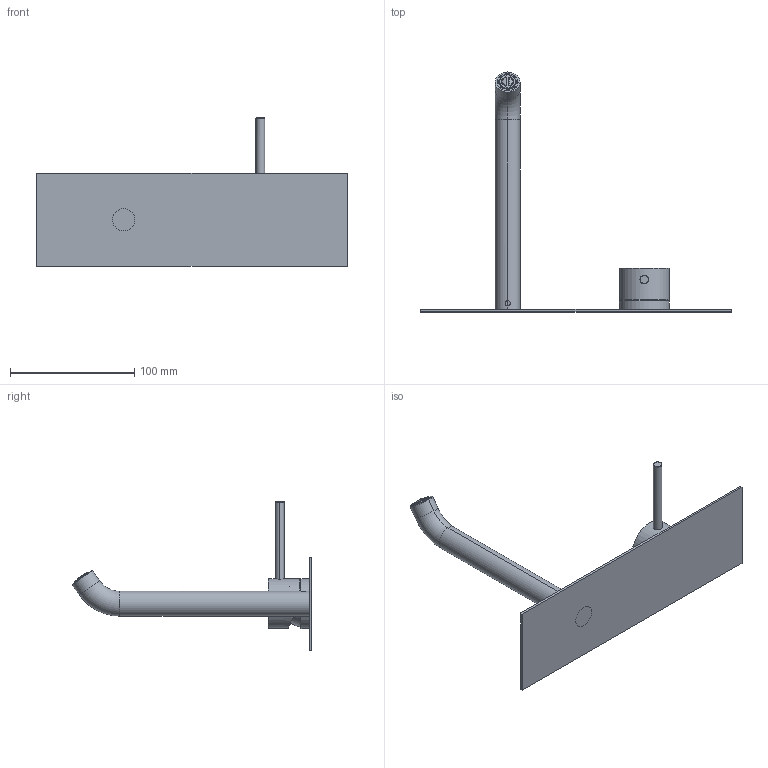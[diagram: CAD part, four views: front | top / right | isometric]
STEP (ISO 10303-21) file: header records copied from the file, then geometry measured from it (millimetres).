
FILE_DESCRIPTION((''),'2;1');
FILE_NAME('6954821_SW0001','2025-11-18T16:32:07',('carloff'),(''),'CREO PARAMETRIC BY PTC INC, 2022014','CREO PARAMETRIC BY PTC INC, 2022014','');
FILE_SCHEMA(('CONFIG_CONTROL_DESIGN'));
Products named in the file (1): 6954821_SW0001
Bounding box: 250 x 193.13 x 119.6 mm (x, y, z)
Volume: 90497.8 mm3; surface area: 73591.9 mm2
Topology: 2 solids, 2 shells, 1667 faces, 4951 edges, 3293 vertices
Faces by surface type: plane 1334, torus 124, cylinder 108, bspline 72, cone 20, sphere 6, extrusion 3
Entity records: 68410 total; most frequent: CARTESIAN_POINT 27424, ORIENTED_EDGE 9890, DIRECTION 6377, EDGE_CURVE 4945, VERTEX_POINT 3293, B_SPLINE_CURVE_WITH_KNOTS 2354, AXIS2_PLACEMENT_3D 2188, VECTOR 2001
